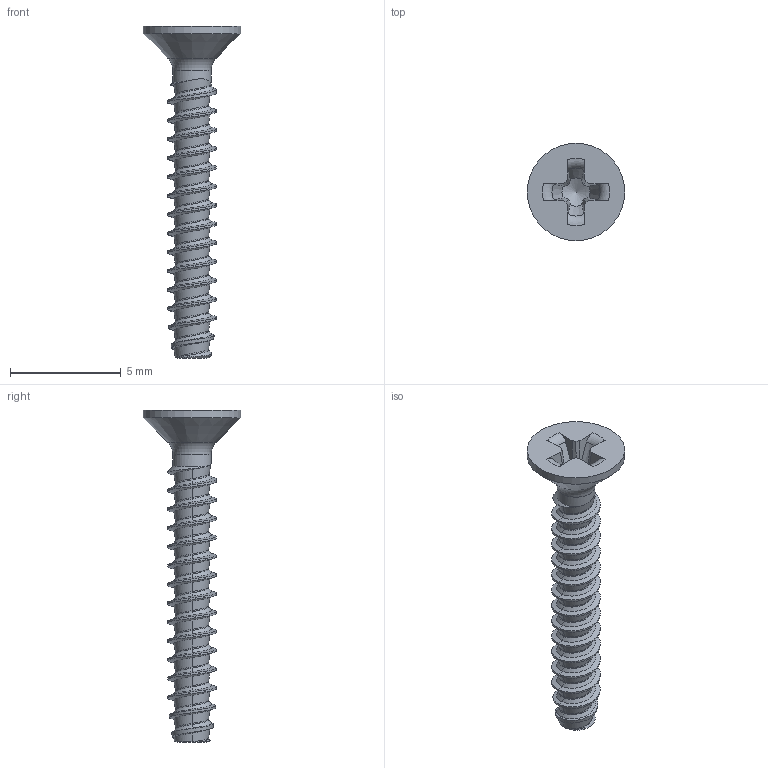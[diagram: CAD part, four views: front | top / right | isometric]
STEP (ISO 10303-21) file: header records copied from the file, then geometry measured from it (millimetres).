
FILE_DESCRIPTION(/* description */ (''),/* implementation_level */ '2;1');
FILE_NAME(/* name */ 'KN6041-STSplus-22x15-H1.step',/* time_stamp */ '2017-10-12T11:24:04+02:00',/* author */ (''),/* organization */ (''),/* preprocessor_version */ 'ST-DEVELOPER v16',/* originating_system */ 'SIEMENS PLM Software NX 10.0',/* authorisation */ '');
FILE_SCHEMA (('AUTOMOTIVE_DESIGN { 1 0 10303 214 3 1 1 1 }'));
Length unit declared in the file: millimetre
Products named in the file (1): KN6041-STSplus-22x15-H1
Bounding box: 4.4 x 4.4 x 15 mm (x, y, z)
Volume: 43.5 mm3; surface area: 153.7 mm2
Topology: 1 solids, 1 shells, 99 faces, 258 edges, 161 vertices
Faces by surface type: bspline 63, plane 18, cone 8, torus 6, cylinder 4
Full cylindrical faces by diameter (mm): 1.72 x1, 4.4 x1
Entity records: 6735 total; most frequent: CARTESIAN_POINT 4806, ORIENTED_EDGE 494, EDGE_CURVE 247, DIRECTION 202, VERTEX_POINT 157, B_SPLINE_CURVE_WITH_KNOTS 140, EDGE_LOOP 105, ADVANCED_FACE 99
